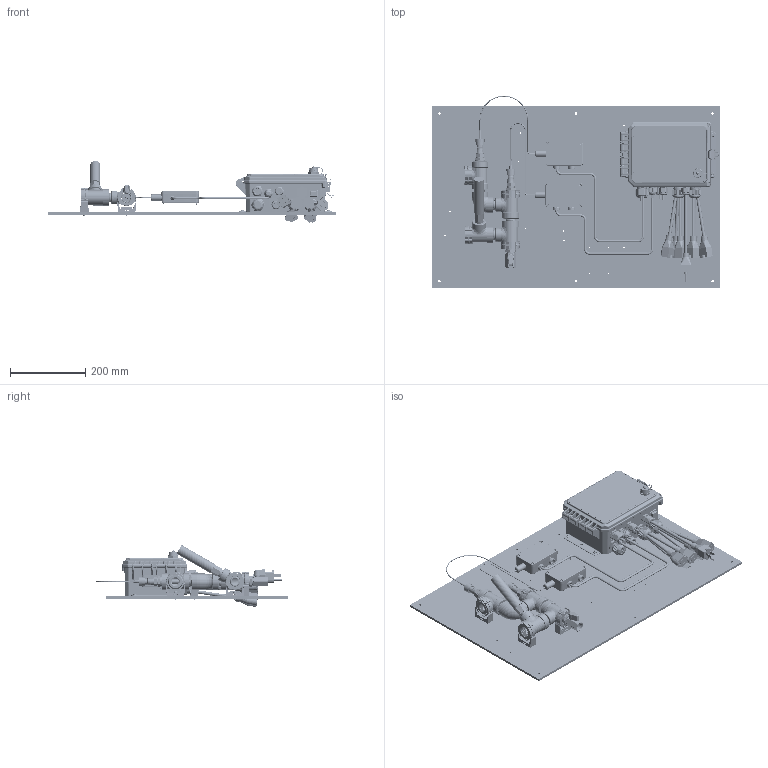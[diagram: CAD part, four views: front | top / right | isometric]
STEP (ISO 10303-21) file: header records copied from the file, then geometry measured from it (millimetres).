
FILE_DESCRIPTION (( 'STEP AP203' ), '1' );
FILE_NAME ('W600-PH-QX.STEP', '2019-05-28T17:13:02', ( '' ), ( '' ), 'SwSTEP 2.0', 'SolidWorks 2019', '' );
FILE_SCHEMA (( 'CONFIG_CONTROL_DESIGN' ));
Length unit declared in the file: inch
Products named in the file (76): SHELL-103885_98273A310; 191576-INTERGRA; 103946; SHELL-191669 body_drilled thru; ISA0011; 103867; SHELL-102029_Long 2; 103861_without letter; SHELL-191633s_Snake 2; SHELL-102961_30075T212; 103025; SHELL-103058; 1032_375H_insert; Nut for M20; SHELL-191669_ORING; 191577-INTEGRA; 191619-01; SHELL-191669 cap_Drilled out; ISA0018_3 Wire; 103910; SHELL-191633s_Snake 1; SHELL-103886_98273A320; 103004; SHELL-102437_4882K14; 9912562-82-10; ISA0021; SHELL-191669 lock; 191584; 100101_USB; SHELL-PK 102 OT; 103832; W600-PH-QX Manifold; SHELL-102961ws; ISA0020; SHELL-102962; 9912571-82-10_95345A043; 103809; SHELL-191669; 102907; 103911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
Assembly tree (135 placements, depth 4):
  W600-PH-QX
    SHELL-102938
    SHELL-102961ws
      SHELL-102961_30075T212
      SHELL-103886_98273A320
    SHELL-102961ws
      SHELL-102961_30075T212
      SHELL-103886_98273A320
    SHELL-102961ws
      SHELL-102961_30075T212
      SHELL-103886_98273A320
    SHELL-102961ws
      SHELL-102961_30075T212
      SHELL-103886_98273A320
    W600 Shell
      ISA0011
        191576-INTERGRA
        1032_375H_insert  x2
        9912562-82-10
        9912571-82-10_95345A043  x2
        9912575-82-10_90631A007  x2
        102444
        9912576-82-10  x2
      191577-INTEGRA
      191584
      ISA0018_3 Wire
        102907
        102903_102903
        102906
        103860_Cord1  x3
        103861_without letter  x3
      ISA0018_3 Wire
        102907
        102903_102903
        102906
        103860_Cord1  x3
        103861_without letter  x3
      ISA0017
        103938
        103859_Cord1
        PCG-11 nut
      ISA0020
        102907
        103025  x6
        103004
        102903_102903
      ISA0019_Plug
        103938
        102407
        PCG-11 nut
      ISA0019_Plug
        103938
        102407
        PCG-11 nut
      ISA0021
        103946
        102407
        Nut for M20
      ISA0022
        103809
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Bounding box: 762 x 510.71 x 164.52 mm (x, y, z)
Volume: 4212750.7 mm3; surface area: 1919898.4 mm2
Topology: 853 solids, 865 shells, 20149 faces, 52063 edges, 34023 vertices
Faces by surface type: plane 10607, cylinder 5531, bspline 2677, cone 1142, torus 168, sphere 24
Entity records: 564327 total; most frequent: CARTESIAN_POINT 247123, ORIENTED_EDGE 69247, DIRECTION 55017, EDGE_CURVE 34639, VERTEX_POINT 22562, VECTOR 20923, LINE 20923, AXIS2_PLACEMENT_3D 17047
